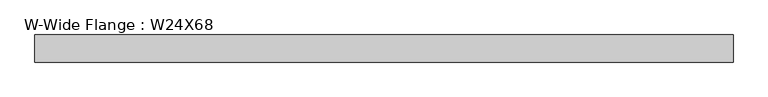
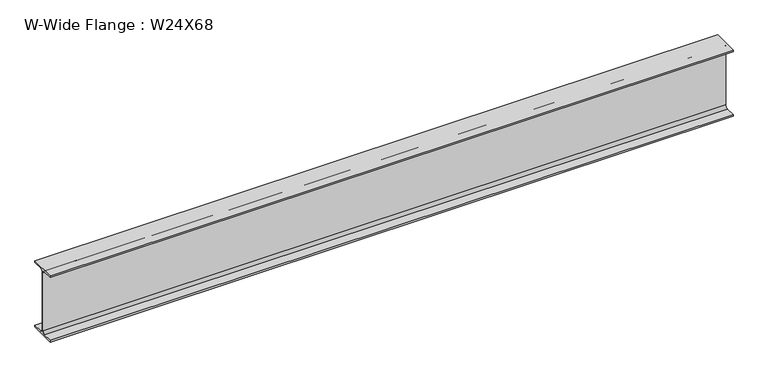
"""IFC4 building model written with IfcOpenShell, lengths in millimetres: beam geometry, W-Wide Flange : W24X68."""

import ifcopenshell
import ifcopenshell.guid

model = None  # the IFC model being written
_history = None  # IfcOwnerHistory: only IFC2X3 demands one
_inside = {}  # id of a spatial element -> (the spatial element, [elements in it])
_under = {}  # id of a project, library or spatial element -> (it, [spatial elements below it])
_declared = {}  # id of a project -> (the project, [libraries it declares])
_typed = {}  # id of a type object -> (the type object, [elements of that type])
_made_of = {}  # id of a material, layer set ... -> (it, [elements and type objects made of it])


def new_model(schema):
    """Start an empty IFC model of exactly this schema.

    Asked for "IFC4X3", IfcOpenShell would pick the latest addendum, in which some entities
    have other attributes; the version numbers below select the first issue.
    IFC2X3 requires an IfcOwnerHistory on every rooted entity: one is made here for all.
    """
    global model, _history
    if schema == "IFC4X3":
        model = ifcopenshell.file(schema_version=(4, 3, 0, 0))
    else:
        model = ifcopenshell.file(schema=schema)
    _inside.clear()
    _under.clear()
    _declared.clear()
    _typed.clear()
    _made_of.clear()
    _history = None
    if model.schema == "IFC2X3":
        org = make("IfcOrganization", Name="unknown")
        user = make(
            "IfcPersonAndOrganization",
            ThePerson=make("IfcPerson", FamilyName="unknown"),
            TheOrganization=org,
        )
        app = make(
            "IfcApplication",
            ApplicationDeveloper=org,
            Version="unknown",
            ApplicationFullName="unknown",
            ApplicationIdentifier="unknown",
        )
        _history = make(
            "IfcOwnerHistory",
            OwningUser=user,
            OwningApplication=app,
            ChangeAction="ADDED",
            CreationDate=0,
        )
    return model


def make(cls, **values):
    """One entity of the class cls with the attributes given. An attribute that is None is left unset."""
    return model.create_entity(
        cls, **{name: value for name, value in values.items() if value is not None}
    )


def rooted(cls, **values):
    """An entity with a GlobalId (a new one), such as an element, a storey or a relation."""
    return make(cls, GlobalId=ifcopenshell.guid.new(), OwnerHistory=_history, **values)


def si_unit(unit_type, name, prefix=None):
    """IfcSIUnit, for example si_unit("LENGTHUNIT", "METRE", prefix="MILLI")."""
    return make("IfcSIUnit", UnitType=unit_type, Prefix=prefix, Name=name)


def assignment(units):
    """IfcUnitAssignment: the units of a project."""
    return None if units is None else make("IfcUnitAssignment", Units=units)


def point(xyz):
    """IfcCartesianPoint."""
    return None if xyz is None else make("IfcCartesianPoint", Coordinates=xyz)


def direction(xyz):
    """IfcDirection."""
    return None if xyz is None else make("IfcDirection", DirectionRatios=xyz)


def frame(location, z_axis=None, x_axis=None):
    """IfcAxis2Placement3D, a coordinate frame: its origin and axes. An axis left out is left unset."""
    return make(
        "IfcAxis2Placement3D",
        Location=point(location),
        Axis=direction(z_axis),
        RefDirection=direction(x_axis),
    )


def frame_2d(location, x_axis=None):
    """IfcAxis2Placement2D, a coordinate frame in the plane: its origin and x axis."""
    return make(
        "IfcAxis2Placement2D", Location=point(location), RefDirection=direction(x_axis)
    )


def origin():
    """The frame at (0, 0, 0) with its axes left unset."""
    return frame((0.0, 0.0, 0.0))


def place(relative_to, where):
    """IfcLocalPlacement: puts the frame where relative to a parent placement (None: the world)."""
    return make(
        "IfcLocalPlacement", PlacementRelTo=relative_to, RelativePlacement=where
    )


def context(
    kind, dimensions, precision=None, world=None, true_north=None, identifier=None
):
    """IfcGeometricRepresentationContext, for example the 3D "Model" context."""
    return make(
        "IfcGeometricRepresentationContext",
        ContextIdentifier=identifier,
        ContextType=kind,
        CoordinateSpaceDimension=dimensions,
        Precision=precision,
        WorldCoordinateSystem=world,
        TrueNorth=true_north,
    )


def project(units=None, contexts=None):
    """IfcProject with its units and contexts."""
    return rooted(
        "IfcProject",
        Name="project",
        RepresentationContexts=contexts,
        UnitsInContext=assignment(units),
    )


def spatial(cls, under=None, at=None, **own):
    """A site, building, storey or space (cls), placed at a placement, below another one or the project."""
    s = rooted(cls, ObjectPlacement=at, **own)
    if under is not None:
        _under.setdefault(under.id(), (under, []))[1].append(s)
    return s


def polyline(points):
    """IfcPolyline through the points."""
    return make("IfcPolyline", Points=[point(p) for p in points])


def circle_curve(where, radius):
    """IfcCircle in the frame where."""
    return make("IfcCircle", Position=where, Radius=radius)


def trimmed(basis, trim1, trim2, sense, master):
    """IfcTrimmedCurve: the piece of a basis curve between two trims."""
    return make(
        "IfcTrimmedCurve",
        BasisCurve=basis,
        Trim1=trim1,
        Trim2=trim2,
        SenseAgreement=sense,
        MasterRepresentation=master,
    )


def segment(curve, same_sense, transition):
    """IfcCompositeCurveSegment."""
    return make(
        "IfcCompositeCurveSegment",
        Transition=transition,
        SameSense=same_sense,
        ParentCurve=curve,
    )


def composite_curve(segments, self_intersect=None):
    """IfcCompositeCurve: segments joined end to end."""
    return make("IfcCompositeCurve", Segments=segments, SelfIntersect=self_intersect)


def outline(outer, holes=None, kind="AREA"):
    """IfcArbitraryClosedProfileDef: a profile drawn as a closed curve; with holes, ...WithVoids."""
    if holes is None:
        return make("IfcArbitraryClosedProfileDef", ProfileType=kind, OuterCurve=outer)
    return make(
        "IfcArbitraryProfileDefWithVoids",
        ProfileType=kind,
        OuterCurve=outer,
        InnerCurves=holes,
    )


def extrude(swept, where, along, depth):
    """IfcExtrudedAreaSolid: the profile swept, set in the frame where, extruded along a direction by depth."""
    return make(
        "IfcExtrudedAreaSolid",
        SweptArea=swept,
        Position=where,
        ExtrudedDirection=direction(along),
        Depth=depth,
    )


def shape(context_of_items, identifier, shape_type, items):
    """IfcShapeRepresentation: the items that make up one representation, for example the "Body"."""
    return make(
        "IfcShapeRepresentation",
        ContextOfItems=context_of_items,
        RepresentationIdentifier=identifier,
        RepresentationType=shape_type,
        Items=items,
    )


def source(mapping_origin, context_of_items, identifier, shape_type, items):
    """IfcRepresentationMap: a shape defined once, which mapped items show again and again."""
    return make(
        "IfcRepresentationMap",
        MappingOrigin=mapping_origin,
        MappedRepresentation=shape(context_of_items, identifier, shape_type, items),
    )


def transform(
    local_origin,
    x_axis=None,
    y_axis=None,
    z_axis=None,
    scale=None,
    scale2=None,
    scale3=None,
    uniform=True,
):
    """IfcCartesianTransformationOperator3D, or its non-uniform kind. x_axis, y_axis, z_axis: its Axis1, 2, 3."""
    if uniform:
        return make(
            "IfcCartesianTransformationOperator3D",
            Axis1=direction(x_axis),
            Axis2=direction(y_axis),
            LocalOrigin=point(local_origin),
            Scale=scale,
            Axis3=direction(z_axis),
        )
    return make(
        "IfcCartesianTransformationOperator3DnonUniform",
        Axis1=direction(x_axis),
        Axis2=direction(y_axis),
        LocalOrigin=point(local_origin),
        Scale=scale,
        Axis3=direction(z_axis),
        Scale2=scale2,
        Scale3=scale3,
    )


def mapped(mapping_source, mapping_target):
    """IfcMappedItem: shows the shape of a source again, moved by a transform."""
    return make(
        "IfcMappedItem", MappingSource=mapping_source, MappingTarget=mapping_target
    )


def made_of(thing, what):
    """Note that an element or type object is made of a material, layer set ...; save() writes the relation."""
    if what is not None:
        _made_of.setdefault(what.id(), (what, []))[1].append(thing)
    return thing


def element(
    cls,
    number,
    at=None,
    inside=None,
    cuts=None,
    type_object=None,
    material=None,
    context=None,
    identifier="Body",
    shape_type=None,
    held_by="IfcProductDefinitionShape",
    body=None,
    shapes=None,
    **own,
):
    """One element of the class cls, such as IfcWall. Its Tag is "e" and its number.

    at: its placement. inside: the storey or other place that contains it. cuts: it is an
    opening in that element (IfcRelVoidsElement). A single representation is given by context,
    identifier, shape_type and body (its items); several are given by shapes. held_by: the class
    of the entity that holds the representations. save() writes the other relations.
    """
    e = rooted(cls, Tag="e%d" % number, ObjectPlacement=at, **own)
    if body is not None:
        shapes = [shape(context, identifier, shape_type, body)]
    if shapes is not None:
        e.Representation = make(held_by, Representations=shapes)
    if inside is not None:
        _inside.setdefault(inside.id(), (inside, []))[1].append(e)
    if cuts is not None:
        rooted(
            "IfcRelVoidsElement", RelatingBuildingElement=cuts, RelatedOpeningElement=e
        )
    if type_object is not None:
        _typed.setdefault(type_object.id(), (type_object, []))[1].append(e)
    return made_of(e, material)


def aggregate(whole, parts):
    """IfcRelAggregates: a whole, such as a stair, and the parts it consists of."""
    return rooted("IfcRelAggregates", RelatingObject=whole, RelatedObjects=parts)


def save(model, path):
    """Write the relations noted so far, then the file.

    IfcRelAggregates (storeys below a building ...), IfcRelContainedInSpatialStructure (elements
    in a storey), IfcRelDefinesByType, IfcRelAssociatesMaterial and IfcRelDeclares: one each for
    every whole, place, type object, material and project.
    """
    for whole, parts in _under.values():
        aggregate(whole, parts)
    for where, things in _inside.values():
        rooted(
            "IfcRelContainedInSpatialStructure",
            RelatedElements=things,
            RelatingStructure=where,
        )
    for kind, things in _typed.values():
        rooted("IfcRelDefinesByType", RelatedObjects=things, RelatingType=kind)
    for what, things in _made_of.values():
        rooted("IfcRelAssociatesMaterial", RelatedObjects=things, RelatingMaterial=what)
    for by, libraries in _declared.values():
        rooted("IfcRelDeclares", RelatingContext=by, RelatedDefinitions=libraries)
    model.write(path)


def w_wide_flange_w24x68_d201753e(model_context):
    return source(origin(), model_context, "Body", "SweptSolid", [
        extrude(outline(composite_curve([segment(polyline([(113.919, -286.131), (113.919, -300.99), (-113.919, -300.99), (-113.919, -286.131), (-28.5115, -286.131)]), True, "CONTINUOUS"), segment(trimmed(circle_curve(frame_2d((-28.5115, -262.89)), 23.241), [point((-28.5115, -286.131))], [point((-5.2705, -262.89))], True, "CARTESIAN"), True, "CONTINUOUS"), segment(polyline([(-5.2705, -262.89), (-5.2705, 262.89)]), True, "CONTINUOUS"), segment(trimmed(circle_curve(frame_2d((-28.5115, 262.89)), 23.241), [point((-5.2705, 262.89))], [point((-28.5115, 286.131))], True, "CARTESIAN"), True, "CONTINUOUS"), segment(polyline([(-28.5115, 286.131), (-113.919, 286.131), (-113.919, 300.99), (113.919, 300.99), (113.919, 286.131), (28.5115, 286.131)]), True, "CONTINUOUS"), segment(trimmed(circle_curve(frame_2d((28.5115, 262.89)), 23.241), [point((28.5115, 286.131))], [point((5.2705, 262.89))], True, "CARTESIAN"), True, "CONTINUOUS"), segment(polyline([(5.2705, 262.89), (5.2705, -262.89)]), True, "CONTINUOUS"), segment(trimmed(circle_curve(frame_2d((28.5115, -262.89)), 23.241), [point((5.2705, -262.89))], [point((28.5115, -286.131))], True, "CARTESIAN"), True, "CONTINUOUS"), segment(polyline([(28.5115, -286.131), (113.919, -286.131)]), True, "CONTINUOUS")], self_intersect=False)), frame((-2933.7, 0.0, 0.0), z_axis=(1.0, 0.0, 0.0), x_axis=(0.0, 1.0, 0.0)), (0.0, 0.0, 1.0), 5867.4),
    ])


if __name__ == "__main__":
    model = new_model("IFC4")
    model_context = context("Model", 3, world=origin())
    ifc_project = project(units=[si_unit("LENGTHUNIT", "METRE", prefix="MILLI")], contexts=[model_context])
    site = spatial("IfcSite", under=ifc_project)
    building = spatial("IfcBuilding", under=site)
    placement = place(None, origin())
    w_wide_flange_w24x68_shape = w_wide_flange_w24x68_d201753e(model_context)
    element("IfcBeam", 1, ObjectType="W-Wide Flange : W24X68", at=placement, inside=building, context=model_context, shape_type="MappedRepresentation", body=[
        mapped(w_wide_flange_w24x68_shape, transform((0.0, 0.0, 0.0), x_axis=(1.0, 0.0, 0.0), y_axis=(0.0, 1.0, 0.0), z_axis=(0.0, 0.0, 1.0))),
    ])
    save(model, "model.ifc")
